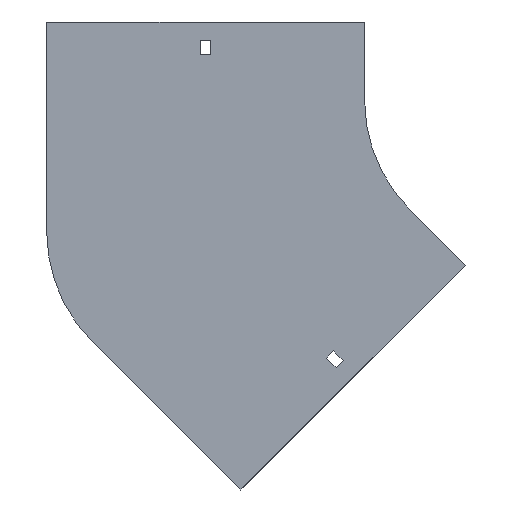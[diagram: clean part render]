
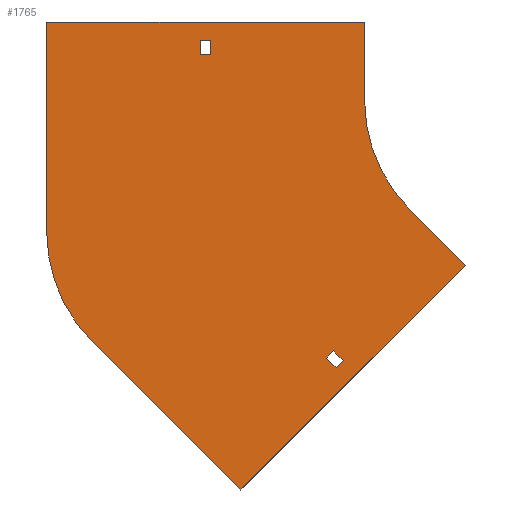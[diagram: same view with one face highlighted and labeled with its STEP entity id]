
A CAD part, front view. The second image highlights one B-rep face of the part: STEP entity #1765.
In plain terms, the highlighted planar face has unit normal (0, -1, 0).
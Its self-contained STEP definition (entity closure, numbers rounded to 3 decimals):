
#1 = CARTESIAN_POINT ( 'NONE',  ( -100., 0., 50. ) ) ;
#24 = DIRECTION ( 'NONE',  ( 0., 0., 1. ) ) ;
#38 = EDGE_CURVE ( 'NONE', #1116, #1517, #1393, .T. ) ;
#66 = EDGE_LOOP ( 'NONE', ( #128, #87, #853, #1186, #809, #246, #932, #1645 ) ) ;
#84 = EDGE_CURVE ( 'NONE', #880, #147, #767, .T. ) ;
#87 = ORIENTED_EDGE ( 'NONE', *, *, #964, .F. ) ;
#89 = CARTESIAN_POINT ( 'NONE',  ( -120.031, 0., -161.044 ) ) ;
#93 = VECTOR ( 'NONE', #751, 1000. ) ;
#120 = LINE ( 'NONE', #1, #1079 ) ;
#122 = FACE_BOUND ( 'NONE', #1383, .T. ) ;
#128 = ORIENTED_EDGE ( 'NONE', *, *, #656, .F. ) ;
#145 = LINE ( 'NONE', #1011, #740 ) ;
#147 = VERTEX_POINT ( 'NONE', #1802 ) ;
#150 = DIRECTION ( 'NONE',  ( 0.707, 0., -0.707 ) ) ;
#167 = VERTEX_POINT ( 'NONE', #806 ) ;
#170 = AXIS2_PLACEMENT_3D ( 'NONE', #1149, #1132, #1448 ) ;
#180 = CARTESIAN_POINT ( 'NONE',  ( -118.264, 0., -172.004 ) ) ;
#190 = VERTEX_POINT ( 'NONE', #1087 ) ;
#246 = ORIENTED_EDGE ( 'NONE', *, *, #1907, .F. ) ;
#247 = DIRECTION ( 'NONE',  ( -0.707, 0., -0.707 ) ) ;
#255 = CARTESIAN_POINT ( 'NONE',  ( -124.628, 0., -165.64 ) ) ;
#278 = DIRECTION ( 'NONE',  ( 0., 0., 1. ) ) ;
#286 = LINE ( 'NONE', #1334, #948 ) ;
#302 = ORIENTED_EDGE ( 'NONE', *, *, #1285, .T. ) ;
#306 = CARTESIAN_POINT ( 'NONE',  ( -304., 0., 50. ) ) ;
#335 = AXIS2_PLACEMENT_3D ( 'NONE', #651, #622, #476 ) ;
#358 = EDGE_LOOP ( 'NONE', ( #1715, #1942, #302, #1873 ) ) ;
#381 = CARTESIAN_POINT ( 'NONE',  ( -35.355, 0., -106.066 ) ) ;
#391 = LINE ( 'NONE', #255, #1667 ) ;
#423 = CARTESIAN_POINT ( 'NONE',  ( -124.628, 0., -165.64 ) ) ;
#435 = VECTOR ( 'NONE', #1835, 1000. ) ;
#465 = ORIENTED_EDGE ( 'NONE', *, *, #587, .F. ) ;
#476 = DIRECTION ( 'NONE',  ( 0., 0., -1. ) ) ;
#480 = CARTESIAN_POINT ( 'NONE',  ( -198.75, 0., 29. ) ) ;
#489 = EDGE_CURVE ( 'NONE', #1722, #505, #120, .T. ) ;
#505 = VERTEX_POINT ( 'NONE', #1153 ) ;
#510 = CARTESIAN_POINT ( 'NONE',  ( -100., 0., 50. ) ) ;
#511 = EDGE_CURVE ( 'NONE', #705, #694, #145, .T. ) ;
#514 = VECTOR ( 'NONE', #693, 1000. ) ;
#532 = PLANE ( 'NONE',  #170 ) ;
#533 = LINE ( 'NONE', #306, #93 ) ;
#542 = LINE ( 'NONE', #89, #514 ) ;
#559 = CARTESIAN_POINT ( 'NONE',  ( -274.711, 0., -155.21 ) ) ;
#578 = CARTESIAN_POINT ( 'NONE',  ( -198.75, 0., 29. ) ) ;
#587 = EDGE_CURVE ( 'NONE', #694, #190, #542, .T. ) ;
#622 = DIRECTION ( 'NONE',  ( 0., -1., 0. ) ) ;
#649 = ORIENTED_EDGE ( 'NONE', *, *, #511, .F. ) ;
#651 = CARTESIAN_POINT ( 'NONE',  ( 0., 0., 0. ) ) ;
#656 = EDGE_CURVE ( 'NONE', #1026, #1722, #533, .T. ) ;
#661 = VERTEX_POINT ( 'NONE', #1941 ) ;
#693 = DIRECTION ( 'NONE',  ( -0.707, 0., 0.707 ) ) ;
#694 = VERTEX_POINT ( 'NONE', #1661 ) ;
#705 = VERTEX_POINT ( 'NONE', #180 ) ;
#709 = EDGE_CURVE ( 'NONE', #505, #661, #995, .T. ) ;
#715 = CARTESIAN_POINT ( 'NONE',  ( -205.25, 0., 29. ) ) ;
#740 = VECTOR ( 'NONE', #1610, 1000. ) ;
#751 = DIRECTION ( 'NONE',  ( 1., 0., 0. ) ) ;
#752 = ORIENTED_EDGE ( 'NONE', *, *, #889, .F. ) ;
#767 = LINE ( 'NONE', #1642, #1905 ) ;
#779 = VERTEX_POINT ( 'NONE', #559 ) ;
#806 = CARTESIAN_POINT ( 'NONE',  ( -124.628, 0., -165.64 ) ) ;
#808 = CARTESIAN_POINT ( 'NONE',  ( -304., 0., 50. ) ) ;
#809 = ORIENTED_EDGE ( 'NONE', *, *, #38, .F. ) ;
#839 = LINE ( 'NONE', #1780, #1218 ) ;
#853 = ORIENTED_EDGE ( 'NONE', *, *, #913, .F. ) ;
#880 = VERTEX_POINT ( 'NONE', #715 ) ;
#889 = EDGE_CURVE ( 'NONE', #167, #705, #1489, .T. ) ;
#905 = CARTESIAN_POINT ( 'NONE',  ( -35.355, 0., -106.066 ) ) ;
#913 = EDGE_CURVE ( 'NONE', #779, #1576, #1466, .T. ) ;
#915 = LINE ( 'NONE', #1948, #1750 ) ;
#932 = ORIENTED_EDGE ( 'NONE', *, *, #709, .F. ) ;
#948 = VECTOR ( 'NONE', #1490, 1000. ) ;
#964 = EDGE_CURVE ( 'NONE', #1576, #1026, #839, .T. ) ;
#995 = CIRCLE ( 'NONE', #335, 100. ) ;
#1011 = CARTESIAN_POINT ( 'NONE',  ( -118.264, 0., -172.004 ) ) ;
#1025 = DIRECTION ( 'NONE',  ( 0., 0., -1. ) ) ;
#1026 = VERTEX_POINT ( 'NONE', #808 ) ;
#1063 = DIRECTION ( 'NONE',  ( -1., 0., 0. ) ) ;
#1079 = VECTOR ( 'NONE', #1025, 1000. ) ;
#1085 = DIRECTION ( 'NONE',  ( 0., 0., -1. ) ) ;
#1087 = CARTESIAN_POINT ( 'NONE',  ( -120.031, 0., -161.044 ) ) ;
#1116 = VERTEX_POINT ( 'NONE', #905 ) ;
#1129 = VERTEX_POINT ( 'NONE', #1348 ) ;
#1132 = DIRECTION ( 'NONE',  ( 0., -1., 0. ) ) ;
#1149 = CARTESIAN_POINT ( 'NONE',  ( 0., 0., 0. ) ) ;
#1153 = CARTESIAN_POINT ( 'NONE',  ( -100., 0., 0. ) ) ;
#1186 = ORIENTED_EDGE ( 'NONE', *, *, #1701, .F. ) ;
#1218 = VECTOR ( 'NONE', #1286, 1000. ) ;
#1228 = EDGE_CURVE ( 'NONE', #1949, #880, #915, .T. ) ;
#1241 = LINE ( 'NONE', #480, #1903 ) ;
#1285 = EDGE_CURVE ( 'NONE', #1129, #1949, #1241, .T. ) ;
#1286 = DIRECTION ( 'NONE',  ( 0., 0., 1. ) ) ;
#1317 = CARTESIAN_POINT ( 'NONE',  ( -304., 0., -84.5 ) ) ;
#1334 = CARTESIAN_POINT ( 'NONE',  ( -205.25, 0., 38. ) ) ;
#1348 = CARTESIAN_POINT ( 'NONE',  ( -198.75, 0., 38. ) ) ;
#1351 = ORIENTED_EDGE ( 'NONE', *, *, #1385, .F. ) ;
#1383 = EDGE_LOOP ( 'NONE', ( #649, #752, #1351, #465 ) ) ;
#1385 = EDGE_CURVE ( 'NONE', #190, #167, #391, .T. ) ;
#1393 = LINE ( 'NONE', #381, #1643 ) ;
#1406 = DIRECTION ( 'NONE',  ( -0.707, 0., -0.707 ) ) ;
#1419 = FACE_BOUND ( 'NONE', #358, .T. ) ;
#1448 = DIRECTION ( 'NONE',  ( 0., 0., -1. ) ) ;
#1466 = CIRCLE ( 'NONE', #1792, 100. ) ;
#1476 = DIRECTION ( 'NONE',  ( 0., 1., 0. ) ) ;
#1489 = LINE ( 'NONE', #423, #1684 ) ;
#1490 = DIRECTION ( 'NONE',  ( 1., 0., 0. ) ) ;
#1517 = VERTEX_POINT ( 'NONE', #1626 ) ;
#1532 = LINE ( 'NONE', #1875, #435 ) ;
#1550 = EDGE_CURVE ( 'NONE', #147, #1129, #286, .T. ) ;
#1576 = VERTEX_POINT ( 'NONE', #1317 ) ;
#1580 = CARTESIAN_POINT ( 'NONE',  ( -70.711, 0., -70.711 ) ) ;
#1610 = DIRECTION ( 'NONE',  ( 0.707, 0., 0.707 ) ) ;
#1626 = CARTESIAN_POINT ( 'NONE',  ( -179.605, 0., -250.316 ) ) ;
#1642 = CARTESIAN_POINT ( 'NONE',  ( -205.25, 0., 29. ) ) ;
#1643 = VECTOR ( 'NONE', #1406, 1000. ) ;
#1645 = ORIENTED_EDGE ( 'NONE', *, *, #489, .F. ) ;
#1661 = CARTESIAN_POINT ( 'NONE',  ( -113.667, 0., -167.408 ) ) ;
#1667 = VECTOR ( 'NONE', #247, 1000. ) ;
#1684 = VECTOR ( 'NONE', #150, 1000. ) ;
#1701 = EDGE_CURVE ( 'NONE', #1517, #779, #1532, .T. ) ;
#1715 = ORIENTED_EDGE ( 'NONE', *, *, #84, .T. ) ;
#1722 = VERTEX_POINT ( 'NONE', #510 ) ;
#1750 = VECTOR ( 'NONE', #1063, 1000. ) ;
#1764 = CARTESIAN_POINT ( 'NONE',  ( -204., 0., -84.5 ) ) ;
#1765 = ADVANCED_FACE ( 'NONE', ( #1419, #1893, #122 ), #532, .T. ) ;
#1780 = CARTESIAN_POINT ( 'NONE',  ( -304., 0., -84.5 ) ) ;
#1792 = AXIS2_PLACEMENT_3D ( 'NONE', #1764, #1476, #278 ) ;
#1802 = CARTESIAN_POINT ( 'NONE',  ( -205.25, 0., 38. ) ) ;
#1835 = DIRECTION ( 'NONE',  ( -0.707, 0., 0.707 ) ) ;
#1873 = ORIENTED_EDGE ( 'NONE', *, *, #1228, .T. ) ;
#1875 = CARTESIAN_POINT ( 'NONE',  ( -179.605, 0., -250.316 ) ) ;
#1893 = FACE_OUTER_BOUND ( 'NONE', #66, .T. ) ;
#1903 = VECTOR ( 'NONE', #1085, 1000. ) ;
#1904 = DIRECTION ( 'NONE',  ( 0.707, 0., -0.707 ) ) ;
#1905 = VECTOR ( 'NONE', #24, 1000. ) ;
#1907 = EDGE_CURVE ( 'NONE', #661, #1116, #1912, .T. ) ;
#1912 = LINE ( 'NONE', #1580, #1925 ) ;
#1925 = VECTOR ( 'NONE', #1904, 1000. ) ;
#1941 = CARTESIAN_POINT ( 'NONE',  ( -70.711, 0., -70.711 ) ) ;
#1942 = ORIENTED_EDGE ( 'NONE', *, *, #1550, .T. ) ;
#1948 = CARTESIAN_POINT ( 'NONE',  ( -205.25, 0., 29. ) ) ;
#1949 = VERTEX_POINT ( 'NONE', #578 ) ;
